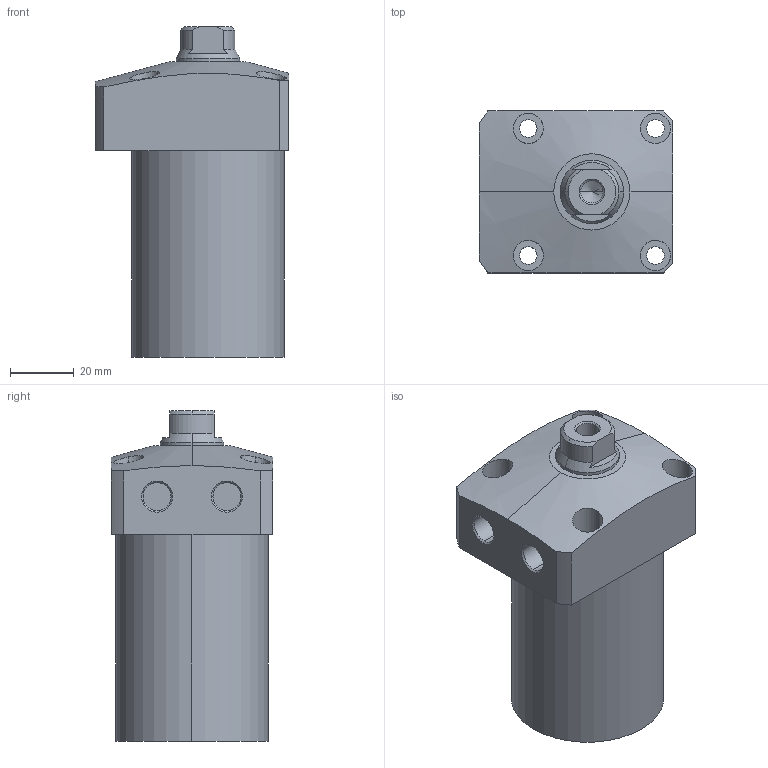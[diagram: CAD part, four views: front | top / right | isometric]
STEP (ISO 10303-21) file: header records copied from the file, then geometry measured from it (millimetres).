
FILE_DESCRIPTION (( 'STEP AP203' ), '1' );
FILE_NAME ('CLL-0480-CA-55.STEP', '2017-05-09T02:27:51', ( '' ), ( '' ), 'SwSTEP 2.0', 'SolidWorks 2015', '' );
FILE_SCHEMA (( 'CONFIG_CONTROL_DESIGN' ));
Length unit declared in the file: millimetre
Products named in the file (1): CLL-0480-CA-55
Bounding box: 61 x 51 x 104 mm (x, y, z)
Volume: 192226 mm3; surface area: 24366.6 mm2
Topology: 1 solids, 1 shells, 72 faces, 169 edges, 108 vertices
Faces by surface type: cylinder 35, plane 22, cone 15
Entity records: 2479 total; most frequent: CARTESIAN_POINT 714, DIRECTION 366, ORIENTED_EDGE 334, EDGE_CURVE 167, AXIS2_PLACEMENT_3D 150, VERTEX_POINT 108, EDGE_LOOP 91, CIRCLE 77
